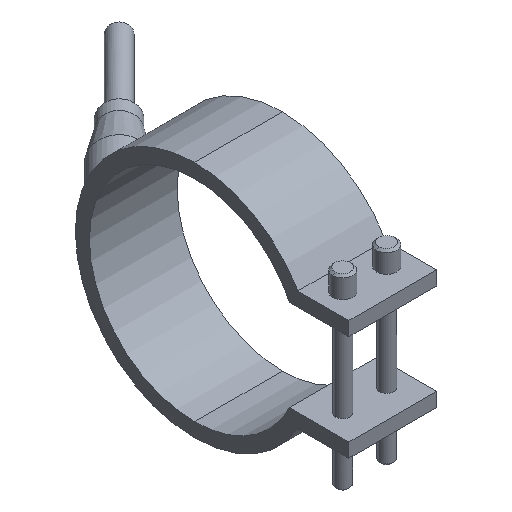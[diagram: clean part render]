
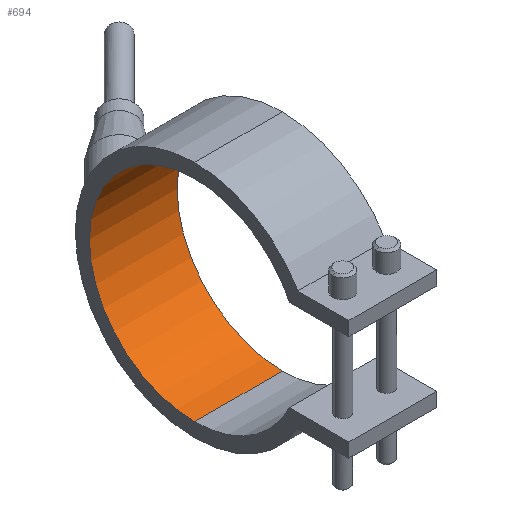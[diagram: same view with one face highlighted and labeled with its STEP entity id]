
A CAD part, isometric view. The second image highlights one B-rep face of the part: STEP entity #694.
In plain terms, the highlighted cylindrical face has radius 30 mm (diameter 60 mm), a partial arc.
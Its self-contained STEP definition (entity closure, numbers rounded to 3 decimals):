
#364=CARTESIAN_POINT('Vertex',(12.5,0.,30.)) ;
#369=CARTESIAN_POINT('Axis2P3D Location',(12.5,0.,0.)) ;
#373=CARTESIAN_POINT('Vertex',(12.5,0.,-30.)) ;
#480=CARTESIAN_POINT('Vertex',(-12.5,0.,-30.)) ;
#483=CARTESIAN_POINT('Axis2P3D Location',(-12.5,0.,0.)) ;
#487=CARTESIAN_POINT('Vertex',(-12.5,0.,30.)) ;
#666=CARTESIAN_POINT('Line Origine',(12.5,0.,30.)) ;
#678=CARTESIAN_POINT('Axis2P3D Location',(12.5,0.,0.)) ;
#683=CARTESIAN_POINT('Line Origine',(12.5,0.,-30.)) ;
#370=DIRECTION('Axis2P3D Direction',(1.,0.,0.)) ;
#484=DIRECTION('Axis2P3D Direction',(1.,0.,0.)) ;
#667=DIRECTION('Vector Direction',(1.,0.,0.)) ;
#679=DIRECTION('Axis2P3D Direction',(1.,0.,-0.)) ;
#680=DIRECTION('Axis2P3D XDirection',(0.,0.,-1.)) ;
#684=DIRECTION('Vector Direction',(1.,0.,0.)) ;
#371=AXIS2_PLACEMENT_3D('Circle Axis2P3D',#369,#370,$) ;
#485=AXIS2_PLACEMENT_3D('Circle Axis2P3D',#483,#484,$) ;
#681=AXIS2_PLACEMENT_3D('Cylinder Axis2P3D',#678,#679,#680) ;
#689=ORIENTED_EDGE('',*,*,#375,.T.) ;
#690=ORIENTED_EDGE('',*,*,#670,.T.) ;
#691=ORIENTED_EDGE('',*,*,#489,.F.) ;
#692=ORIENTED_EDGE('',*,*,#687,.T.) ;
#668=VECTOR('Line Direction',#667,1.) ;
#685=VECTOR('Line Direction',#684,1.) ;
#694=ADVANCED_FACE('29060025',(#693),#682,.F.) ;
#372=CIRCLE('generated circle',#371,30.) ;
#486=CIRCLE('generated circle',#485,30.) ;
#682=CYLINDRICAL_SURFACE('generated cylinder',#681,30.) ;
#375=EDGE_CURVE('',#374,#365,#372,.T.) ;
#489=EDGE_CURVE('',#481,#488,#486,.T.) ;
#670=EDGE_CURVE('',#365,#488,#669,.F.) ;
#687=EDGE_CURVE('',#481,#374,#686,.T.) ;
#688=EDGE_LOOP('',(#689,#690,#691,#692)) ;
#693=FACE_OUTER_BOUND('',#688,.T.) ;
#669=LINE('Line',#666,#668) ;
#686=LINE('Line',#683,#685) ;
#365=VERTEX_POINT('',#364) ;
#374=VERTEX_POINT('',#373) ;
#481=VERTEX_POINT('',#480) ;
#488=VERTEX_POINT('',#487) ;
